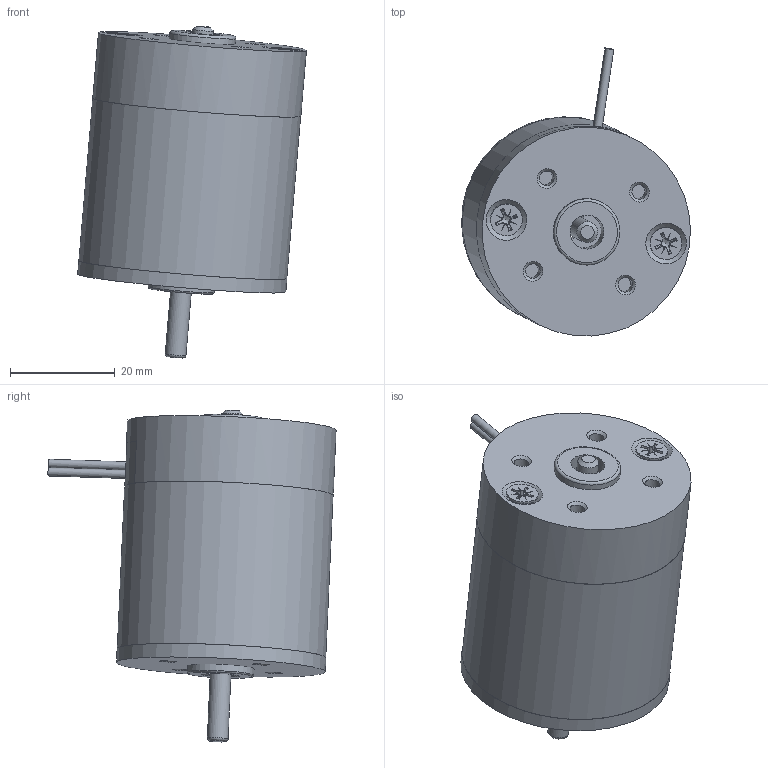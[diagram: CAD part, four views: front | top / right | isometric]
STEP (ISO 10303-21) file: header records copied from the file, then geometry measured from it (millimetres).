
FILE_DESCRIPTION((''),'2;1');
FILE_NAME('D:\연구개발부2팀 1파트\10_진행업무\3D\RM4_SERIES\RM42ㅁBL.stp','2014-06-23T10:15:02',('song'),(''),'Autodesk Inventor 2011','Autodesk Inventor 2011','');
FILE_SCHEMA(('AUTOMOTIVE_DESIGN { 1 0 10303 214 1 1 1 1 }'));
Length unit declared in the file: millimetre
Products named in the file (8): RM42ㅁBL; RM4TYPE_FRONT_HOUSING_; RM4TYPE_PIPE_HOUSING_pi40XL31.2; RM42TYPE_SHAFT; AS 1427 Z - 미터 M3.5 x 5; REAR_HOUSING__ASS'Y_LEAD; RM4TYPE_BRUSH_BRAKET_LEAD; RM4TYPE_REAR_HOUSING
Assembly tree (7 placements, depth 2):
  RM42ㅁBL
    RM4TYPE_FRONT_HOUSING_
    RM4TYPE_PIPE_HOUSING_pi40XL31.2
    RM42TYPE_SHAFT
    AS 1427 Z - 미터 M3.5 x 5  x2
  REAR_HOUSING__ASS'Y_LEAD
    RM4TYPE_BRUSH_BRAKET_LEAD
    RM4TYPE_REAR_HOUSING
Bounding box: 43.78 x 55.12 x 63.51 mm (x, y, z)
Volume: 17605 mm3; surface area: 17735 mm2
Topology: 7 solids, 8 shells, 150 faces, 359 edges, 226 vertices
Faces by surface type: plane 65, cone 44, cylinder 30, torus 11
Full cylindrical faces by diameter (mm): 1.6 x2, 2.7 x4, 2.8 x4, 3.132 x2, 3.5 x2, 3.7 x2, 3.969 x1, 4 x1, 6.1 x2, 6.5 x1, 6.65 x1, 12.7 x2, 36.5 x1, 40 x3
Entity records: 3260 total; most frequent: CARTESIAN_POINT 711, DIRECTION 516, ORIENTED_EDGE 402, AXIS2_PLACEMENT_3D 226, EDGE_CURVE 201, EDGE_LOOP 181, VERTEX_POINT 149, FACE_OUTER_BOUND 109
